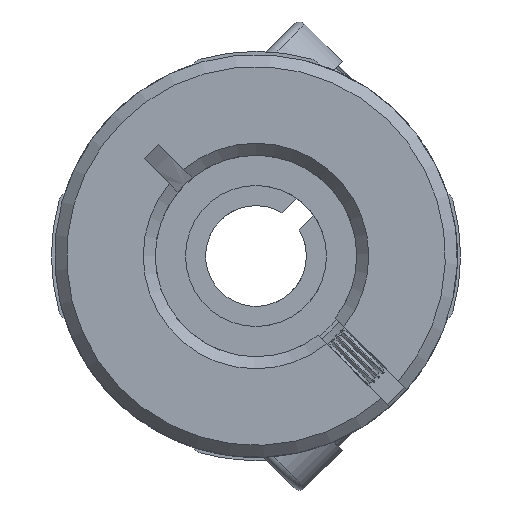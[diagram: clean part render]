
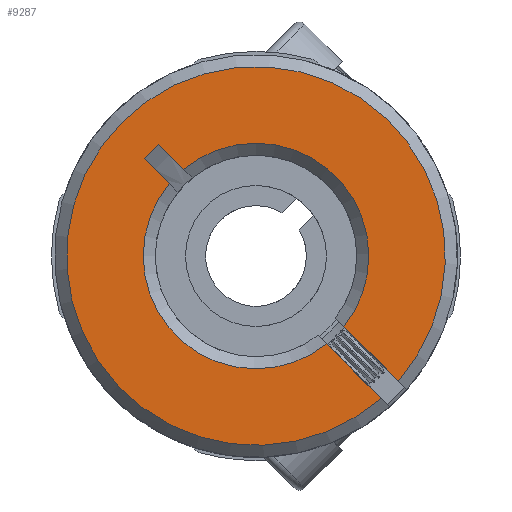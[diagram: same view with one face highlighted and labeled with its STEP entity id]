
A CAD part, front view. The second image highlights one B-rep face of the part: STEP entity #9287.
In plain terms, the highlighted planar face has unit normal (0, -1, 0).
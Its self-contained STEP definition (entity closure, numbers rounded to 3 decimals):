
#156 = DIRECTION ( 'NONE',  ( 0.707, 0., -0.707 ) ) ;
#336 = EDGE_LOOP ( 'NONE', ( #5877, #1064, #2766, #612, #4893, #7410, #9248, #9166 ) ) ;
#574 = VERTEX_POINT ( 'NONE', #2045 ) ;
#586 = EDGE_CURVE ( 'NONE', #706, #574, #12841, .T. ) ;
#612 = ORIENTED_EDGE ( 'NONE', *, *, #586, .T. ) ;
#706 = VERTEX_POINT ( 'NONE', #3223 ) ;
#795 = AXIS2_PLACEMENT_3D ( 'NONE', #2294, #1270, #156 ) ;
#950 = DIRECTION ( 'NONE',  ( 0.707, 0., -0.707 ) ) ;
#1064 = ORIENTED_EDGE ( 'NONE', *, *, #2435, .T. ) ;
#1270 = DIRECTION ( 'NONE',  ( 0., 1., 0. ) ) ;
#1395 = EDGE_CURVE ( 'NONE', #10939, #5503, #7266, .T. ) ;
#1577 = DIRECTION ( 'NONE',  ( 0.707, 0., -0.707 ) ) ;
#1629 = CIRCLE ( 'NONE', #4523, 5.6 ) ;
#1899 = LINE ( 'NONE', #2709, #3336 ) ;
#1913 = DIRECTION ( 'NONE',  ( -0.707, 0., -0.707 ) ) ;
#1958 = CARTESIAN_POINT ( 'NONE',  ( 0., -12.6, 0. ) ) ;
#2043 = CARTESIAN_POINT ( 'NONE',  ( 4.361, -12.6, -3.513 ) ) ;
#2045 = CARTESIAN_POINT ( 'NONE',  ( 6.209, -12.6, -7.058 ) ) ;
#2294 = CARTESIAN_POINT ( 'NONE',  ( 342.528, -12.6, 364.579 ) ) ;
#2435 = EDGE_CURVE ( 'NONE', #10033, #7655, #1629, .T. ) ;
#2709 = CARTESIAN_POINT ( 'NONE',  ( 3.086, -12.6, -3.934 ) ) ;
#2766 = ORIENTED_EDGE ( 'NONE', *, *, #8734, .F. ) ;
#2776 = CARTESIAN_POINT ( 'NONE',  ( -3.59, -12.6, 4.298 ) ) ;
#2990 = FACE_OUTER_BOUND ( 'NONE', #336, .T. ) ;
#3042 = AXIS2_PLACEMENT_3D ( 'NONE', #1958, #9214, #6150 ) ;
#3223 = CARTESIAN_POINT ( 'NONE',  ( 7.058, -12.6, -6.209 ) ) ;
#3336 = VECTOR ( 'NONE', #3657, 1000. ) ;
#3657 = DIRECTION ( 'NONE',  ( 0.707, 0., -0.707 ) ) ;
#3691 = EDGE_CURVE ( 'NONE', #10939, #10033, #7281, .T. ) ;
#4292 = VECTOR ( 'NONE', #6242, 1000. ) ;
#4360 = CARTESIAN_POINT ( 'NONE',  ( 5.657, -12.6, -4.95 ) ) ;
#4523 = AXIS2_PLACEMENT_3D ( 'NONE', #10390, #11429, #8290 ) ;
#4667 = VERTEX_POINT ( 'NONE', #5411 ) ;
#4679 = VECTOR ( 'NONE', #950, 1000. ) ;
#4893 = ORIENTED_EDGE ( 'NONE', *, *, #12472, .F. ) ;
#4980 = VECTOR ( 'NONE', #12637, 1000. ) ;
#5315 = LINE ( 'NONE', #11131, #4679 ) ;
#5411 = CARTESIAN_POINT ( 'NONE',  ( 3.513, -12.6, -4.361 ) ) ;
#5428 = EDGE_CURVE ( 'NONE', #4667, #10501, #11677, .T. ) ;
#5503 = VERTEX_POINT ( 'NONE', #10944 ) ;
#5671 = CARTESIAN_POINT ( 'NONE',  ( 0., -12.6, 0. ) ) ;
#5877 = ORIENTED_EDGE ( 'NONE', *, *, #3691, .T. ) ;
#6150 = DIRECTION ( 'NONE',  ( 0.707, 0., -0.707 ) ) ;
#6242 = DIRECTION ( 'NONE',  ( -0.707, 0., 0.707 ) ) ;
#6618 = EDGE_CURVE ( 'NONE', #5503, #10501, #5315, .T. ) ;
#6627 = CARTESIAN_POINT ( 'NONE',  ( -4.298, -12.6, 3.59 ) ) ;
#7266 = LINE ( 'NONE', #11064, #9937 ) ;
#7281 = LINE ( 'NONE', #4360, #4980 ) ;
#7410 = ORIENTED_EDGE ( 'NONE', *, *, #5428, .T. ) ;
#7655 = VERTEX_POINT ( 'NONE', #2043 ) ;
#7738 = DIRECTION ( 'NONE',  ( 0., 1., 0. ) ) ;
#8290 = DIRECTION ( 'NONE',  ( 0.707, 0., -0.707 ) ) ;
#8443 = CARTESIAN_POINT ( 'NONE',  ( 3.934, -12.6, -3.086 ) ) ;
#8734 = EDGE_CURVE ( 'NONE', #706, #7655, #9412, .T. ) ;
#9166 = ORIENTED_EDGE ( 'NONE', *, *, #1395, .F. ) ;
#9214 = DIRECTION ( 'NONE',  ( 0., -1., 0. ) ) ;
#9248 = ORIENTED_EDGE ( 'NONE', *, *, #6618, .F. ) ;
#9287 = ADVANCED_FACE ( 'NONE', ( #2990 ), #12424, .F. ) ;
#9412 = LINE ( 'NONE', #8443, #4292 ) ;
#9937 = VECTOR ( 'NONE', #1913, 1000. ) ;
#10033 = VERTEX_POINT ( 'NONE', #2776 ) ;
#10390 = CARTESIAN_POINT ( 'NONE',  ( 0., -12.6, 0. ) ) ;
#10501 = VERTEX_POINT ( 'NONE', #6627 ) ;
#10939 = VERTEX_POINT ( 'NONE', #11753 ) ;
#10944 = CARTESIAN_POINT ( 'NONE',  ( -5.549, -12.6, 4.842 ) ) ;
#11064 = CARTESIAN_POINT ( 'NONE',  ( -4.842, -12.6, 5.549 ) ) ;
#11131 = CARTESIAN_POINT ( 'NONE',  ( 4.95, -12.6, -5.657 ) ) ;
#11391 = AXIS2_PLACEMENT_3D ( 'NONE', #5671, #7738, #1577 ) ;
#11429 = DIRECTION ( 'NONE',  ( 0., 1., 0. ) ) ;
#11677 = CIRCLE ( 'NONE', #11391, 5.6 ) ;
#11753 = CARTESIAN_POINT ( 'NONE',  ( -4.842, -12.6, 5.549 ) ) ;
#12424 = PLANE ( 'NONE',  #795 ) ;
#12472 = EDGE_CURVE ( 'NONE', #4667, #574, #1899, .T. ) ;
#12637 = DIRECTION ( 'NONE',  ( 0.707, 0., -0.707 ) ) ;
#12841 = CIRCLE ( 'NONE', #3042, 9.4 ) ;
